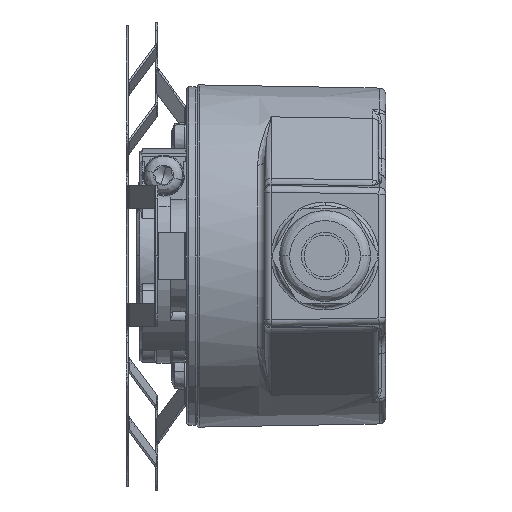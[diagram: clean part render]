
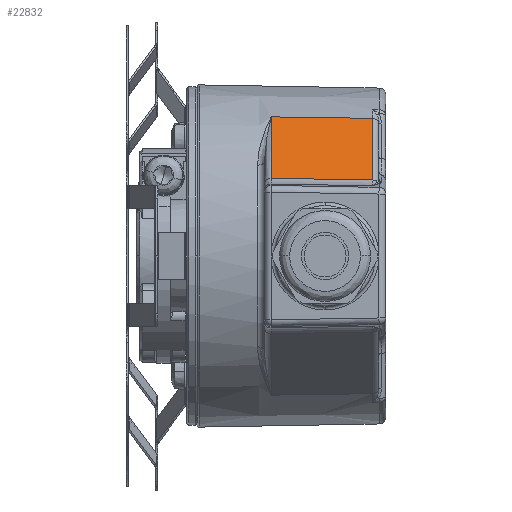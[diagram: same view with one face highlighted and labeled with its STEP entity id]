
A CAD part, front view. The second image highlights one B-rep face of the part: STEP entity #22832.
In plain terms, the highlighted planar face has unit normal (0.018, -0.574, 0.819).
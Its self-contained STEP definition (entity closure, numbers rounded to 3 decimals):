
#772 = CARTESIAN_POINT ( 'NONE',  ( 12.517, -27.476, 11.534 ) ) ;
#1889 = EDGE_CURVE ( 'NONE', #16612, #19088, #18698, .T. ) ;
#2138 = LINE ( 'NONE', #12225, #7191 ) ;
#3474 = CARTESIAN_POINT ( 'NONE',  ( 27.517, -14.308, 20.434 ) ) ;
#3636 = VECTOR ( 'NONE', #10675, 1000. ) ;
#4416 = ORIENTED_EDGE ( 'NONE', *, *, #1889, .T. ) ;
#4969 = ORIENTED_EDGE ( 'NONE', *, *, #9986, .T. ) ;
#5914 = EDGE_LOOP ( 'NONE', ( #4969, #12105, #14988, #4416 ) ) ;
#6024 = VECTOR ( 'NONE', #23013, 1000. ) ;
#6845 = CARTESIAN_POINT ( 'NONE',  ( 1.5, -14.569, 20.806 ) ) ;
#7191 = VECTOR ( 'NONE', #10406, 1000. ) ;
#7927 = VECTOR ( 'NONE', #21937, 1000. ) ;
#8074 = EDGE_CURVE ( 'NONE', #16612, #17432, #8755, .T. ) ;
#8080 = PLANE ( 'NONE',  #17626 ) ;
#8755 = LINE ( 'NONE', #6845, #3636 ) ;
#8857 = EDGE_CURVE ( 'NONE', #12567, #17432, #11121, .T. ) ;
#9986 = EDGE_CURVE ( 'NONE', #19088, #12567, #2138, .T. ) ;
#10155 = DIRECTION ( 'NONE',  ( 0., -0.819, -0.574 ) ) ;
#10406 = DIRECTION ( 'NONE',  ( 1., 0.007, -0.017 ) ) ;
#10675 = DIRECTION ( 'NONE',  ( 1., 0.01, -0.014 ) ) ;
#11121 = LINE ( 'NONE', #13389, #6024 ) ;
#12105 = ORIENTED_EDGE ( 'NONE', *, *, #8857, .T. ) ;
#12225 = CARTESIAN_POINT ( 'NONE',  ( 28.505, -27.371, 11.267 ) ) ;
#12316 = CARTESIAN_POINT ( 'NONE',  ( 12.517, -27.473, 11.536 ) ) ;
#12567 = VERTEX_POINT ( 'NONE', #13352 ) ;
#13352 = CARTESIAN_POINT ( 'NONE',  ( 27.517, -27.377, 11.283 ) ) ;
#13389 = CARTESIAN_POINT ( 'NONE',  ( 27.517, -14.308, 20.434 ) ) ;
#14988 = ORIENTED_EDGE ( 'NONE', *, *, #8074, .F. ) ;
#16612 = VERTEX_POINT ( 'NONE', #20105 ) ;
#17432 = VERTEX_POINT ( 'NONE', #3474 ) ;
#17626 = AXIS2_PLACEMENT_3D ( 'NONE', #19709, #21683, #10155 ) ;
#18698 = LINE ( 'NONE', #12316, #7927 ) ;
#19088 = VERTEX_POINT ( 'NONE', #772 ) ;
#19709 = CARTESIAN_POINT ( 'NONE',  ( 1.5, -14.569, 20.806 ) ) ;
#19863 = FACE_OUTER_BOUND ( 'NONE', #5914, .T. ) ;
#20105 = CARTESIAN_POINT ( 'NONE',  ( 12.517, -14.459, 20.649 ) ) ;
#21683 = DIRECTION ( 'NONE',  ( 0.017, -0.573, 0.819 ) ) ;
#21937 = DIRECTION ( 'NONE',  ( 0., -0.819, -0.574 ) ) ;
#22832 = ADVANCED_FACE ( 'NONE', ( #19863 ), #8080, .T. ) ;
#23013 = DIRECTION ( 'NONE',  ( 0., 0.819, 0.574 ) ) ;
